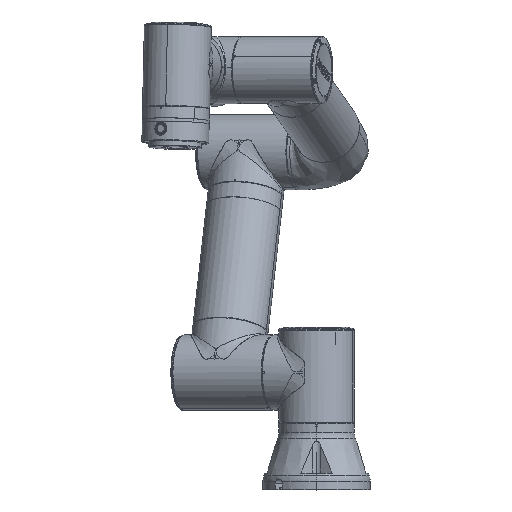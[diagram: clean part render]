
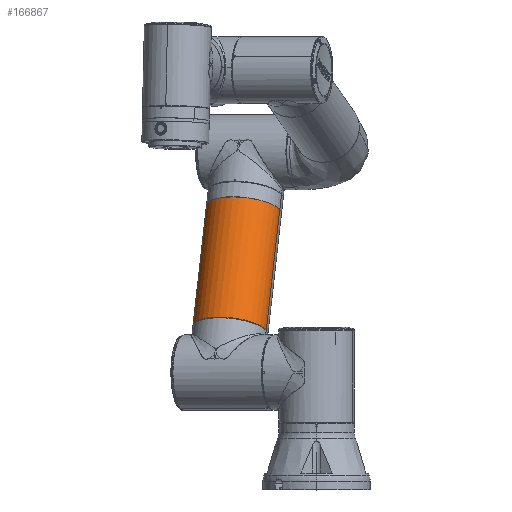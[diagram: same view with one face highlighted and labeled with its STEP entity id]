
A CAD part, top view. The second image highlights one B-rep face of the part: STEP entity #166867.
In plain terms, the highlighted cylindrical face has radius 45 mm (diameter 90 mm), a partial arc.
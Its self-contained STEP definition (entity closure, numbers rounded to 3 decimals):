
#1535 = CARTESIAN_POINT ( 'NONE',  ( 156.8, 0., -45. ) ) ;
#4057 = CARTESIAN_POINT ( 'NONE',  ( 156.8, 0., 45. ) ) ;
#10487 = DIRECTION ( 'NONE',  ( -1., 0., 0. ) ) ;
#17016 = CARTESIAN_POINT ( 'NONE',  ( 156.8, 0., 0. ) ) ;
#18938 = ORIENTED_EDGE ( 'NONE', *, *, #184205, .T. ) ;
#22125 = ORIENTED_EDGE ( 'NONE', *, *, #183289, .F. ) ;
#24436 = LINE ( 'NONE', #95008, #84307 ) ;
#28517 = CIRCLE ( 'NONE', #128280, 45. ) ;
#57993 = DIRECTION ( 'NONE',  ( -1., 0., 0. ) ) ;
#63118 = CARTESIAN_POINT ( 'NONE',  ( 180., 0., 45. ) ) ;
#64941 = FACE_OUTER_BOUND ( 'NONE', #148683, .T. ) ;
#67245 = ORIENTED_EDGE ( 'NONE', *, *, #220292, .T. ) ;
#80919 = VERTEX_POINT ( 'NONE', #1535 ) ;
#81206 = CARTESIAN_POINT ( 'NONE',  ( 180., 0., 0. ) ) ;
#84307 = VECTOR ( 'NONE', #57993, 1000. ) ;
#95008 = CARTESIAN_POINT ( 'NONE',  ( 180., 0., -45. ) ) ;
#97871 = DIRECTION ( 'NONE',  ( -1., 0., 0. ) ) ;
#100163 = LINE ( 'NONE', #63118, #150102 ) ;
#106756 = VERTEX_POINT ( 'NONE', #114709 ) ;
#114189 = AXIS2_PLACEMENT_3D ( 'NONE', #81206, #151838, #117049 ) ;
#114709 = CARTESIAN_POINT ( 'NONE',  ( 4., 0., 45. ) ) ;
#117049 = DIRECTION ( 'NONE',  ( 0., 0., 1. ) ) ;
#128280 = AXIS2_PLACEMENT_3D ( 'NONE', #17016, #10487, #185291 ) ;
#128292 = AXIS2_PLACEMENT_3D ( 'NONE', #224403, #133006, #225552 ) ;
#130062 = CARTESIAN_POINT ( 'NONE',  ( 4., 0., -45. ) ) ;
#133006 = DIRECTION ( 'NONE',  ( -1., 0., 0. ) ) ;
#148493 = VERTEX_POINT ( 'NONE', #4057 ) ;
#148683 = EDGE_LOOP ( 'NONE', ( #225062, #18938, #67245, #22125 ) ) ;
#150102 = VECTOR ( 'NONE', #97871, 1000. ) ;
#151838 = DIRECTION ( 'NONE',  ( -1., 0., 0. ) ) ;
#166867 = ADVANCED_FACE ( 'NONE', ( #64941 ), #223637, .T. ) ;
#183289 = EDGE_CURVE ( 'NONE', #106756, #203018, #228134, .T. ) ;
#184205 = EDGE_CURVE ( 'NONE', #148493, #80919, #28517, .T. ) ;
#185291 = DIRECTION ( 'NONE',  ( 0., 0., -1. ) ) ;
#203018 = VERTEX_POINT ( 'NONE', #130062 ) ;
#216829 = EDGE_CURVE ( 'NONE', #148493, #106756, #100163, .T. ) ;
#220292 = EDGE_CURVE ( 'NONE', #80919, #203018, #24436, .T. ) ;
#223637 = CYLINDRICAL_SURFACE ( 'NONE', #114189, 45. ) ;
#224403 = CARTESIAN_POINT ( 'NONE',  ( 4., 0., 0. ) ) ;
#225062 = ORIENTED_EDGE ( 'NONE', *, *, #216829, .F. ) ;
#225552 = DIRECTION ( 'NONE',  ( 0., 0., 1. ) ) ;
#228134 = CIRCLE ( 'NONE', #128292, 45. ) ;
